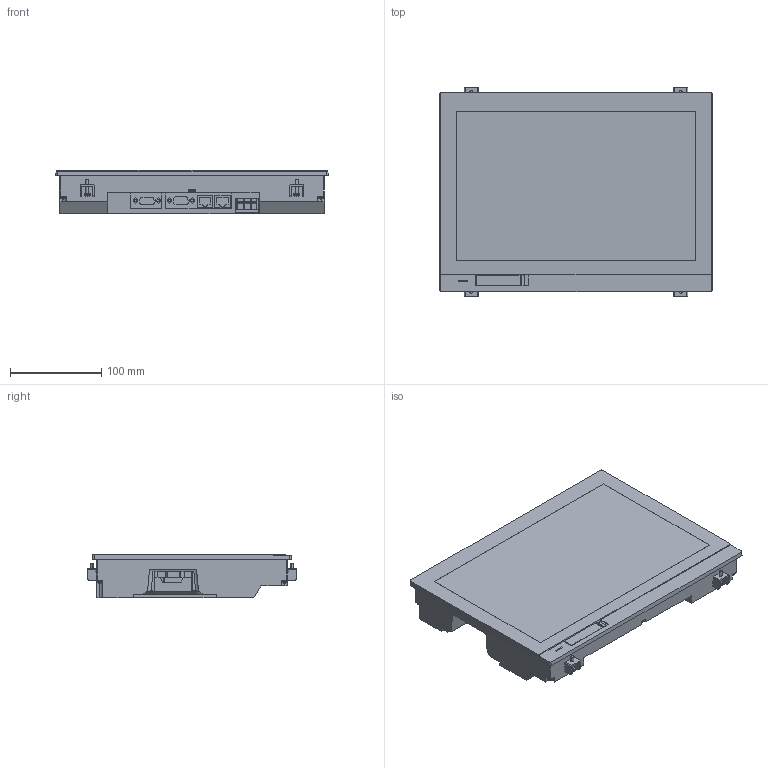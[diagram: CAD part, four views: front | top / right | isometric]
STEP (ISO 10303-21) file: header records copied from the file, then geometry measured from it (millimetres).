
FILE_DESCRIPTION((''),'2;1');
FILE_NAME('GT2512W_A_ASM','2020-12-14T',('MM05496'),(''),'CREO PARAMETRIC BY PTC INC, 2017480','CREO PARAMETRIC BY PTC INC, 2017480','');
FILE_SCHEMA(('CONFIG_CONTROL_DESIGN'));
Length unit declared in the file: millimetre
Products named in the file (11): GT2512W_A; COVER_1; COVER_2; COVER_3; COVER_4; COVER_5; TORITUKE_1; TORITUKE_2; TORITUKE_3; TORITUKE_4; GT2512W_A_ASM
Assembly tree (10 placements, depth 2):
  GT2512W_A_ASM
    GT2512W_A
    COVER_1
    COVER_2
    COVER_3
    COVER_4
    COVER_5
    TORITUKE_1
    TORITUKE_2
    TORITUKE_3
    TORITUKE_4
Bounding box: 299 x 230 x 48.05 mm (x, y, z)
Volume: 2593985.3 mm3; surface area: 208144.7 mm2
Topology: 10 solids, 10 shells, 781 faces, 2053 edges, 1344 vertices
Faces by surface type: plane 530, cylinder 183, cone 20, torus 20, revolution 20, bspline 8
Entity records: 24776 total; most frequent: CARTESIAN_POINT 5012, ORIENTED_EDGE 4066, DIRECTION 4027, EDGE_CURVE 2033, VECTOR 1527, LINE 1527, VERTEX_POINT 1344, AXIS2_PLACEMENT_3D 1240
